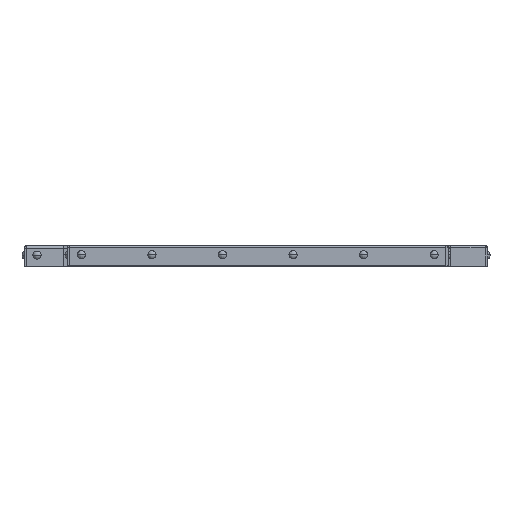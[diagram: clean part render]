
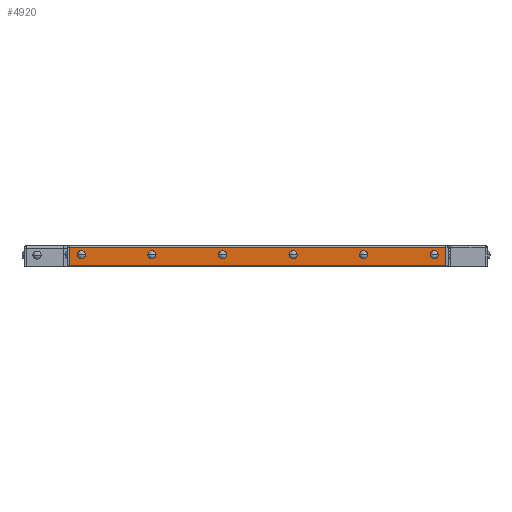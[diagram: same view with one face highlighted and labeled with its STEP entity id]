
A CAD part, top view. The second image highlights one B-rep face of the part: STEP entity #4920.
In plain terms, the highlighted planar face has unit normal (0, 0, 1).
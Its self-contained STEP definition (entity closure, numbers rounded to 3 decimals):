
#732=DIRECTION('',(0.,-1.,0.));
#733=VECTOR('',#732,1.55);
#734=CARTESIAN_POINT('',(-15.85,-0.2,29.2));
#735=LINE('',#734,#733);
#736=DIRECTION('',(0.,1.,0.));
#737=VECTOR('',#736,1.55);
#738=CARTESIAN_POINT('',(16.15,-1.75,29.2));
#739=LINE('',#738,#737);
#740=DIRECTION('',(1.,0.,0.));
#741=VECTOR('',#740,32.);
#742=CARTESIAN_POINT('',(-15.85,-1.75,29.2));
#743=LINE('',#742,#741);
#744=CARTESIAN_POINT('',(15.15,-0.8,29.2));
#745=DIRECTION('',(0.,0.,-1.));
#746=DIRECTION('',(-1.,0.,0.));
#747=AXIS2_PLACEMENT_3D('',#744,#745,#746);
#749=CARTESIAN_POINT('',(15.15,-0.8,29.2));
#750=DIRECTION('',(0.,0.,-1.));
#751=DIRECTION('',(1.,0.,0.));
#752=AXIS2_PLACEMENT_3D('',#749,#750,#751);
#754=CARTESIAN_POINT('',(9.15,-0.8,29.2));
#755=DIRECTION('',(0.,0.,-1.));
#756=DIRECTION('',(-1.,0.,0.));
#757=AXIS2_PLACEMENT_3D('',#754,#755,#756);
#759=CARTESIAN_POINT('',(9.15,-0.8,29.2));
#760=DIRECTION('',(0.,0.,-1.));
#761=DIRECTION('',(1.,0.,0.));
#762=AXIS2_PLACEMENT_3D('',#759,#760,#761);
#764=CARTESIAN_POINT('',(3.15,-0.8,29.2));
#765=DIRECTION('',(0.,0.,-1.));
#766=DIRECTION('',(-1.,0.,0.));
#767=AXIS2_PLACEMENT_3D('',#764,#765,#766);
#769=CARTESIAN_POINT('',(3.15,-0.8,29.2));
#770=DIRECTION('',(0.,0.,-1.));
#771=DIRECTION('',(1.,0.,0.));
#772=AXIS2_PLACEMENT_3D('',#769,#770,#771);
#774=CARTESIAN_POINT('',(-2.85,-0.8,29.2));
#775=DIRECTION('',(0.,0.,-1.));
#776=DIRECTION('',(-1.,0.,0.));
#777=AXIS2_PLACEMENT_3D('',#774,#775,#776);
#779=CARTESIAN_POINT('',(-2.85,-0.8,29.2));
#780=DIRECTION('',(0.,0.,-1.));
#781=DIRECTION('',(1.,0.,0.));
#782=AXIS2_PLACEMENT_3D('',#779,#780,#781);
#784=CARTESIAN_POINT('',(-8.85,-0.8,29.2));
#785=DIRECTION('',(0.,0.,-1.));
#786=DIRECTION('',(-1.,0.,0.));
#787=AXIS2_PLACEMENT_3D('',#784,#785,#786);
#789=CARTESIAN_POINT('',(-8.85,-0.8,29.2));
#790=DIRECTION('',(0.,0.,-1.));
#791=DIRECTION('',(1.,0.,0.));
#792=AXIS2_PLACEMENT_3D('',#789,#790,#791);
#794=CARTESIAN_POINT('',(-14.85,-0.8,29.2));
#795=DIRECTION('',(0.,0.,-1.));
#796=DIRECTION('',(-1.,0.,0.));
#797=AXIS2_PLACEMENT_3D('',#794,#795,#796);
#799=CARTESIAN_POINT('',(-14.85,-0.8,29.2));
#800=DIRECTION('',(0.,0.,-1.));
#801=DIRECTION('',(1.,0.,0.));
#802=AXIS2_PLACEMENT_3D('',#799,#800,#801);
#1332=DIRECTION('',(-1.,0.,0.));
#1333=VECTOR('',#1332,32.);
#1334=CARTESIAN_POINT('',(16.15,-0.2,29.2));
#1335=LINE('',#1334,#1333);
#3056=CARTESIAN_POINT('',(-15.85,-0.2,29.2));
#3057=CARTESIAN_POINT('',(-15.85,-1.75,29.2));
#3058=VERTEX_POINT('',#3056);
#3059=VERTEX_POINT('',#3057);
#3060=CARTESIAN_POINT('',(16.15,-1.75,29.2));
#3061=VERTEX_POINT('',#3060);
#3062=CARTESIAN_POINT('',(16.15,-0.2,29.2));
#3063=VERTEX_POINT('',#3062);
#3310=CARTESIAN_POINT('',(14.804,-0.8,29.2));
#3311=CARTESIAN_POINT('',(15.496,-0.8,29.2));
#3312=VERTEX_POINT('',#3310);
#3313=VERTEX_POINT('',#3311);
#3322=CARTESIAN_POINT('',(8.804,-0.8,29.2));
#3323=CARTESIAN_POINT('',(9.496,-0.8,29.2));
#3324=VERTEX_POINT('',#3322);
#3325=VERTEX_POINT('',#3323);
#3334=CARTESIAN_POINT('',(2.804,-0.8,29.2));
#3335=CARTESIAN_POINT('',(3.496,-0.8,29.2));
#3336=VERTEX_POINT('',#3334);
#3337=VERTEX_POINT('',#3335);
#3346=CARTESIAN_POINT('',(-3.196,-0.8,29.2));
#3347=CARTESIAN_POINT('',(-2.504,-0.8,29.2));
#3348=VERTEX_POINT('',#3346);
#3349=VERTEX_POINT('',#3347);
#3358=CARTESIAN_POINT('',(-9.196,-0.8,29.2));
#3359=CARTESIAN_POINT('',(-8.504,-0.8,29.2));
#3360=VERTEX_POINT('',#3358);
#3361=VERTEX_POINT('',#3359);
#3370=CARTESIAN_POINT('',(-15.196,-0.8,29.2));
#3371=CARTESIAN_POINT('',(-14.504,-0.8,29.2));
#3372=VERTEX_POINT('',#3370);
#3373=VERTEX_POINT('',#3371);
#4870=CARTESIAN_POINT('',(-8.247,0.,29.2));
#4871=DIRECTION('',(0.,0.,1.));
#4872=DIRECTION('',(1.,0.,0.));
#4873=AXIS2_PLACEMENT_3D('',#4870,#4871,#4872);
#4874=PLANE('',#4873);
#4876=ORIENTED_EDGE('',*,*,#4875,.F.);
#4878=ORIENTED_EDGE('',*,*,#4877,.F.);
#4879=ORIENTED_EDGE('',*,*,#4860,.F.);
#4881=ORIENTED_EDGE('',*,*,#4880,.F.);
#4882=EDGE_LOOP('',(#4876,#4878,#4879,#4881));
#4883=FACE_OUTER_BOUND('',#4882,.F.);
#4885=ORIENTED_EDGE('',*,*,#4884,.F.);
#4887=ORIENTED_EDGE('',*,*,#4886,.F.);
#4888=EDGE_LOOP('',(#4885,#4887));
#4889=FACE_BOUND('',#4888,.F.);
#4891=ORIENTED_EDGE('',*,*,#4890,.F.);
#4893=ORIENTED_EDGE('',*,*,#4892,.F.);
#4894=EDGE_LOOP('',(#4891,#4893));
#4895=FACE_BOUND('',#4894,.F.);
#4897=ORIENTED_EDGE('',*,*,#4896,.F.);
#4899=ORIENTED_EDGE('',*,*,#4898,.F.);
#4900=EDGE_LOOP('',(#4897,#4899));
#4901=FACE_BOUND('',#4900,.F.);
#4903=ORIENTED_EDGE('',*,*,#4902,.F.);
#4905=ORIENTED_EDGE('',*,*,#4904,.F.);
#4906=EDGE_LOOP('',(#4903,#4905));
#4907=FACE_BOUND('',#4906,.F.);
#4909=ORIENTED_EDGE('',*,*,#4908,.F.);
#4911=ORIENTED_EDGE('',*,*,#4910,.F.);
#4912=EDGE_LOOP('',(#4909,#4911));
#4913=FACE_BOUND('',#4912,.F.);
#4915=ORIENTED_EDGE('',*,*,#4914,.F.);
#4917=ORIENTED_EDGE('',*,*,#4916,.F.);
#4918=EDGE_LOOP('',(#4915,#4917));
#4919=FACE_BOUND('',#4918,.F.);
#4920=ADVANCED_FACE('',(#4883,#4889,#4895,#4901,#4907,#4913,#4919),#4874,.T.);
#748=CIRCLE('',#747,0.346);
#753=CIRCLE('',#752,0.346);
#758=CIRCLE('',#757,0.346);
#763=CIRCLE('',#762,0.346);
#768=CIRCLE('',#767,0.346);
#773=CIRCLE('',#772,0.346);
#778=CIRCLE('',#777,0.346);
#783=CIRCLE('',#782,0.346);
#788=CIRCLE('',#787,0.346);
#793=CIRCLE('',#792,0.346);
#798=CIRCLE('',#797,0.346);
#803=CIRCLE('',#802,0.346);
#4860=EDGE_CURVE('',#3061,#3063,#739,.T.);
#4875=EDGE_CURVE('',#3058,#3059,#735,.T.);
#4877=EDGE_CURVE('',#3063,#3058,#1335,.T.);
#4880=EDGE_CURVE('',#3059,#3061,#743,.T.);
#4884=EDGE_CURVE('',#3312,#3313,#748,.T.);
#4886=EDGE_CURVE('',#3313,#3312,#753,.T.);
#4890=EDGE_CURVE('',#3324,#3325,#758,.T.);
#4892=EDGE_CURVE('',#3325,#3324,#763,.T.);
#4896=EDGE_CURVE('',#3336,#3337,#768,.T.);
#4898=EDGE_CURVE('',#3337,#3336,#773,.T.);
#4902=EDGE_CURVE('',#3348,#3349,#778,.T.);
#4904=EDGE_CURVE('',#3349,#3348,#783,.T.);
#4908=EDGE_CURVE('',#3360,#3361,#788,.T.);
#4910=EDGE_CURVE('',#3361,#3360,#793,.T.);
#4914=EDGE_CURVE('',#3372,#3373,#798,.T.);
#4916=EDGE_CURVE('',#3373,#3372,#803,.T.);
